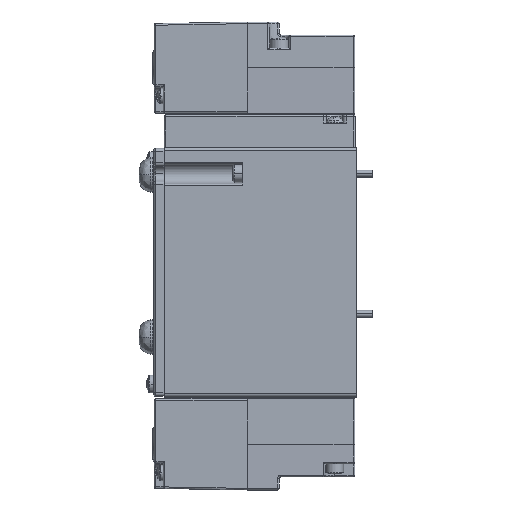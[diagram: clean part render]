
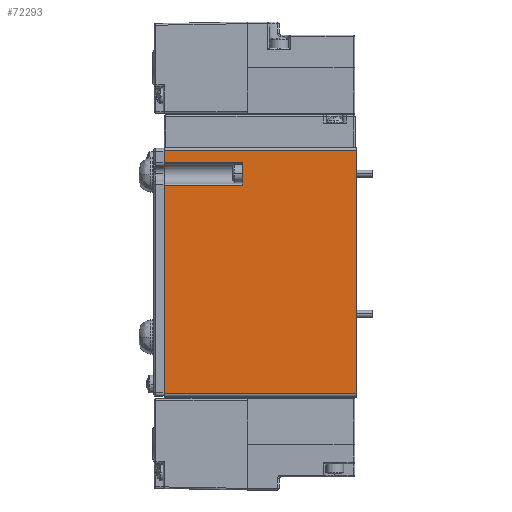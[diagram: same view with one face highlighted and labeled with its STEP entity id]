
A CAD part, left-side view. The second image highlights one B-rep face of the part: STEP entity #72293.
In plain terms, the highlighted planar face has unit normal (-1, 0, 0).
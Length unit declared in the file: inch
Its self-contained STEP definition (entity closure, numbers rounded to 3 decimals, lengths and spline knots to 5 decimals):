
#227 = CARTESIAN_POINT ( 'NONE',  ( -0.47244, 2.32283, 1.46654 ) ) ;
#1127 = VECTOR ( 'NONE', #4657, 39.37008 ) ;
#1449 = VERTEX_POINT ( 'NONE', #40101 ) ;
#3568 = CARTESIAN_POINT ( 'NONE',  ( -0.47244, 2.32283, 1.32874 ) ) ;
#4657 = DIRECTION ( 'NONE',  ( 0., 0., 1. ) ) ;
#5764 = CARTESIAN_POINT ( 'NONE',  ( -0.47244, 0., 1.46654 ) ) ;
#6365 = EDGE_CURVE ( 'NONE', #86810, #10755, #68457, .T. ) ;
#7824 = VECTOR ( 'NONE', #50761, 39.37008 ) ;
#8351 = FACE_OUTER_BOUND ( 'NONE', #83650, .T. ) ;
#9067 = LINE ( 'NONE', #67598, #34925 ) ;
#10755 = VERTEX_POINT ( 'NONE', #39235 ) ;
#12194 = ORIENTED_EDGE ( 'NONE', *, *, #49795, .T. ) ;
#14504 = EDGE_CURVE ( 'NONE', #68280, #22549, #67229, .T. ) ;
#15700 = LINE ( 'NONE', #32604, #1127 ) ;
#16259 = DIRECTION ( 'NONE',  ( 0., 0., -1. ) ) ;
#19871 = ORIENTED_EDGE ( 'NONE', *, *, #57433, .T. ) ;
#21050 = VECTOR ( 'NONE', #16259, 39.37008 ) ;
#22549 = VERTEX_POINT ( 'NONE', #63043 ) ;
#23448 = VECTOR ( 'NONE', #90117, 39.37008 ) ;
#26876 = EDGE_CURVE ( 'NONE', #81090, #60832, #38909, .T. ) ;
#28763 = CARTESIAN_POINT ( 'NONE',  ( -0.47244, 1.37795, 1.05315 ) ) ;
#28968 = CARTESIAN_POINT ( 'NONE',  ( -0.47244, 2.32283, 1.05315 ) ) ;
#29010 = ORIENTED_EDGE ( 'NONE', *, *, #6365, .T. ) ;
#30342 = AXIS2_PLACEMENT_3D ( 'NONE', #66785, #89569, #54860 ) ;
#32209 = ORIENTED_EDGE ( 'NONE', *, *, #14504, .T. ) ;
#32604 = CARTESIAN_POINT ( 'NONE',  ( -0.47244, 0., 1.50591 ) ) ;
#34925 = VECTOR ( 'NONE', #45994, 39.37008 ) ;
#35077 = EDGE_CURVE ( 'NONE', #60832, #68280, #15700, .T. ) ;
#35925 = VECTOR ( 'NONE', #89682, 39.37008 ) ;
#37314 = CARTESIAN_POINT ( 'NONE',  ( -0.47244, 2.32283, 1.50591 ) ) ;
#38361 = EDGE_CURVE ( 'NONE', #22549, #86810, #55857, .T. ) ;
#38909 = LINE ( 'NONE', #59737, #88516 ) ;
#39235 = CARTESIAN_POINT ( 'NONE',  ( -0.47244, 1.37795, 1.32874 ) ) ;
#40101 = CARTESIAN_POINT ( 'NONE',  ( -0.47244, 2.32283, 1.05315 ) ) ;
#43668 = CARTESIAN_POINT ( 'NONE',  ( -0.47244, 0., -1.46654 ) ) ;
#45994 = DIRECTION ( 'NONE',  ( 0., 0., -1. ) ) ;
#47412 = EDGE_CURVE ( 'NONE', #10755, #93223, #9067, .T. ) ;
#48136 = CARTESIAN_POINT ( 'NONE',  ( -0.47244, 2.32283, -1.46654 ) ) ;
#49795 = EDGE_CURVE ( 'NONE', #93223, #1449, #90318, .T. ) ;
#50761 = DIRECTION ( 'NONE',  ( 0., 1., 0. ) ) ;
#54860 = DIRECTION ( 'NONE',  ( 0., -1., 0. ) ) ;
#55857 = LINE ( 'NONE', #37314, #21050 ) ;
#57433 = EDGE_CURVE ( 'NONE', #1449, #81090, #71665, .T. ) ;
#59737 = CARTESIAN_POINT ( 'NONE',  ( -0.47244, 2.32283, -1.46654 ) ) ;
#60512 = PLANE ( 'NONE',  #30342 ) ;
#60832 = VERTEX_POINT ( 'NONE', #43668 ) ;
#63043 = CARTESIAN_POINT ( 'NONE',  ( -0.47244, 2.32283, 1.46654 ) ) ;
#63128 = VECTOR ( 'NONE', #64637, 39.37008 ) ;
#64637 = DIRECTION ( 'NONE',  ( 0., 1., 0. ) ) ;
#66785 = CARTESIAN_POINT ( 'NONE',  ( -0.47244, 2.32283, 1.50591 ) ) ;
#67229 = LINE ( 'NONE', #227, #7824 ) ;
#67531 = CARTESIAN_POINT ( 'NONE',  ( -0.47244, 2.32283, 1.32874 ) ) ;
#67598 = CARTESIAN_POINT ( 'NONE',  ( -0.47244, 1.37795, 1.50591 ) ) ;
#68280 = VERTEX_POINT ( 'NONE', #5764 ) ;
#68457 = LINE ( 'NONE', #3568, #35925 ) ;
#69332 = ORIENTED_EDGE ( 'NONE', *, *, #47412, .T. ) ;
#71665 = LINE ( 'NONE', #74639, #23448 ) ;
#72293 = ADVANCED_FACE ( 'NONE', ( #8351 ), #60512, .T. ) ;
#74639 = CARTESIAN_POINT ( 'NONE',  ( -0.47244, 2.32283, 1.50591 ) ) ;
#75859 = ORIENTED_EDGE ( 'NONE', *, *, #38361, .T. ) ;
#81090 = VERTEX_POINT ( 'NONE', #48136 ) ;
#83650 = EDGE_LOOP ( 'NONE', ( #69332, #12194, #19871, #89412, #89379, #32209, #75859, #29010 ) ) ;
#86810 = VERTEX_POINT ( 'NONE', #67531 ) ;
#88470 = DIRECTION ( 'NONE',  ( 0., -1., 0. ) ) ;
#88516 = VECTOR ( 'NONE', #88470, 39.37008 ) ;
#89379 = ORIENTED_EDGE ( 'NONE', *, *, #35077, .T. ) ;
#89412 = ORIENTED_EDGE ( 'NONE', *, *, #26876, .T. ) ;
#89569 = DIRECTION ( 'NONE',  ( -1., 0., 0. ) ) ;
#89682 = DIRECTION ( 'NONE',  ( 0., -1., 0. ) ) ;
#90117 = DIRECTION ( 'NONE',  ( 0., 0., -1. ) ) ;
#90318 = LINE ( 'NONE', #28968, #63128 ) ;
#93223 = VERTEX_POINT ( 'NONE', #28763 ) ;
